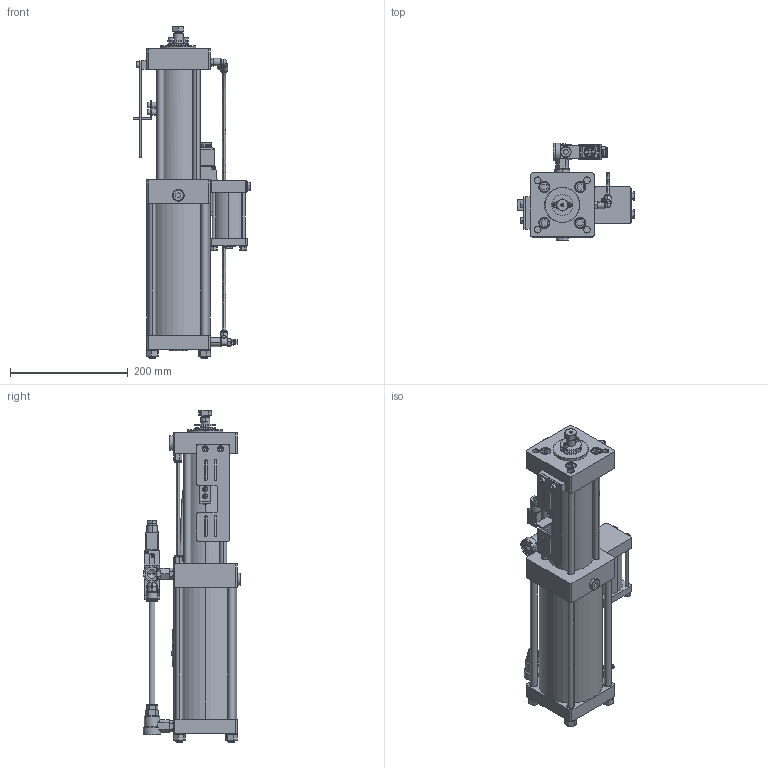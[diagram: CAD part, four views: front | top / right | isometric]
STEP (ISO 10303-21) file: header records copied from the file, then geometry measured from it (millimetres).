
FILE_DESCRIPTION (( 'STEP AP203' ), '1' );
FILE_NAME ('PCT5 10036 VC13.STEP', '2017-12-05T08:43:01', ( '' ), ( '' ), 'SwSTEP 2.0', 'SolidWorks 2015', '' );
FILE_SCHEMA (( 'CONFIG_CONTROL_DESIGN' ));
Length unit declared in the file: millimetre
Products named in the file (39): Part2^PCT; plain washer (type a)_is_IS 2016 A- 9; INT TUBE; PCT5 10036 VC13; 18Janatics-Male elbow_Male threaded nipple_Dia 6 x 18; Janatics-WN015152WN015152_WN015152; hexagon fit bolt_is_IS 3640 - M8 x 25 x 14.5-N; INT FEC; 18Janatics-Male elbow_elbow_DIA 6; Janatics-WN015151WN015151_WN015151; QEV; INT TR; 18Janatics-Male elbow_Collet cap_DIA 6; DC VALVE-Janatics-DEFAULT_DS255SR61; (normal) internal_is_IS 3075(Part2) NI- 26; spring lock washer 6735_is_IS 6735- 6; PCT CYL_PCT5 10036 VC13; 1 8 BSP FCV-Janatics-GR2_GR1105006; Janatics-Male elbow_elbow_DIA 10; 1 4 BSP QEV; hexagon nut_is_IS 1363-2 - M6-N; socket head cap screw_is_IS 2269 - M5 x 8-N; Part3^PCT; Janatics-Male elbow_Collet cap_DIA 10; Janatics-Male connector_housing MC_WP2110650; 3 8 BSP PLUG; socket head cap screw_is_IS 2269 - M6 x 10-N; Part4^PCT; Janatics-Male elbow_Male threaded nipple_Dia 10 x 14; Janatics-Male connector_Collet cap_DIA 6; SILENCER; INT REC; spring lock washer 6735_is_IS 6735- 12; Janatics-Male elbow_Male elbow; 1 8 BSP PU 6_Janatics-Male connector_Male connector; CONTAINER PRA-03; GASKET; hexagon nut style 1_is_IS 1364-3 - M12-W-N; Part1^PCT
Assembly tree (69 placements, depth 3):
  PCT5 10036 VC13
    PCT CYL_PCT5 10036 VC13
    socket head cap screw_is_IS 2269 - M5 x 8-N  x4
    socket head cap screw_is_IS 2269 - M6 x 10-N  x2
    CONTAINER PRA-03
      INT REC
      GASKET  x2
      INT TUBE
      INT FEC
      INT TR  x4
      spring lock washer 6735_is_IS 6735- 6  x4
      hexagon nut_is_IS 1363-2 - M6-N  x4
      3 8 BSP PLUG
      SILENCER
    plain washer (type a)_is_IS 2016 A- 9  x2
    hexagon fit bolt_is_IS 3640 - M8 x 25 x 14.5-N  x2
    1 4 BSP QEV
      QEV
      (normal) internal_is_IS 3075(Part2) NI- 26
    QEV
    1 8 BSP PU 6_Janatics-Male connector_Male connector  x2
      Janatics-Male connector_housing MC_WP2110650
      Janatics-Male connector_Collet cap_DIA 6
    Part2^PCT
    Janatics-WN015152WN015152_WN015152  x2
    Janatics-WN015151WN015151_WN015151
    DC VALVE-Janatics-DEFAULT_DS255SR61
    (normal) internal_is_IS 3075(Part2) NI- 26
    Janatics-Male elbow_Male elbow
      Janatics-Male elbow_elbow_DIA 10
      Janatics-Male elbow_Collet cap_DIA 10
      Janatics-Male elbow_Male threaded nipple_Dia 10 x 14
    Janatics-Male elbow_Collet cap_DIA 10  x2
    Janatics-Male elbow_Male threaded nipple_Dia 10 x 14  x2
    Part1^PCT
    SILENCER  x2
    18Janatics-Male elbow_Male threaded nipple_Dia 6 x 18
    18Janatics-Male elbow_elbow_DIA 6
    18Janatics-Male elbow_Collet cap_DIA 6
    1 8 BSP FCV-Janatics-GR2_GR1105006
    Part4^PCT
    spring lock washer 6735_is_IS 6735- 12  x4
    hexagon nut style 1_is_IS 1364-3 - M12-W-N  x4
  Part3^PCT
Bounding box: 200.6 x 166 x 565 mm (x, y, z)
Volume: 4636203.2 mm3; surface area: 592946.4 mm2
Topology: 87 solids, 88 shells, 4351 faces, 10952 edges, 6921 vertices
Faces by surface type: plane 1938, cylinder 1350, cone 726, torus 177, bspline 145, sphere 15
Entity records: 107676 total; most frequent: CARTESIAN_POINT 25873, ORIENTED_EDGE 16112, DIRECTION 15997, EDGE_CURVE 8056, AXIS2_PLACEMENT_3D 5848, VERTEX_POINT 5150, LINE 4301, VECTOR 4301
